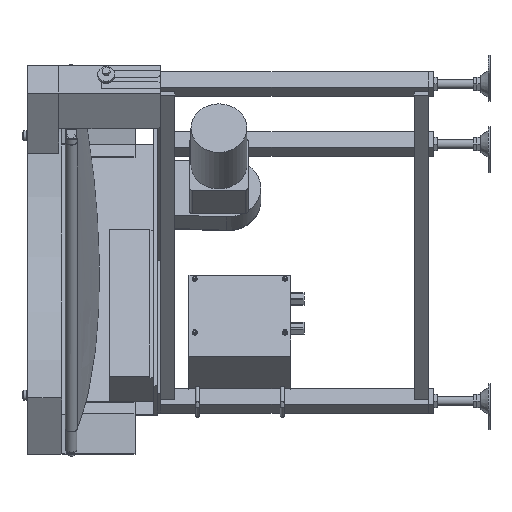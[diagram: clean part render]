
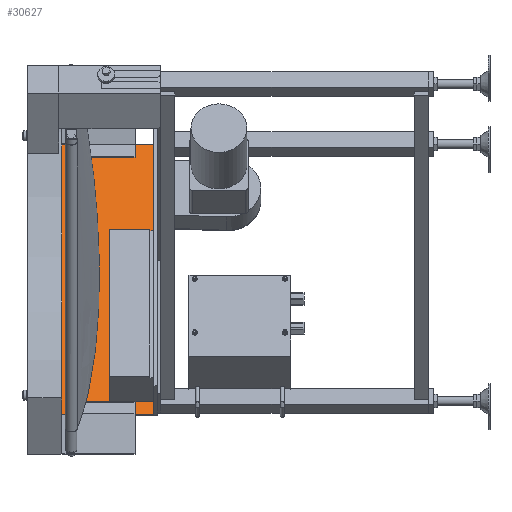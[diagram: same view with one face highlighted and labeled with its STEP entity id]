
A CAD part, left-side view. The second image highlights one B-rep face of the part: STEP entity #30627.
In plain terms, the highlighted planar face has unit normal (-0.866, 0, 0.5).
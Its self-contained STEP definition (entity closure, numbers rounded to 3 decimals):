
#2050 = ORIENTED_EDGE ( 'NONE', *, *, #42476, .F. ) ;
#2112 = LINE ( 'NONE', #20863, #21098 ) ;
#2996 = EDGE_LOOP ( 'NONE', ( #35363, #46563, #44117, #48468 ) ) ;
#4062 = CARTESIAN_POINT ( 'NONE',  ( 703.313, 39.5, -299.826 ) ) ;
#4585 = EDGE_CURVE ( 'NONE', #33768, #33768, #45370, .T. ) ;
#5065 = DIRECTION ( 'NONE',  ( -0.5, 0., -0.866 ) ) ;
#7189 = CARTESIAN_POINT ( 'NONE',  ( 704.813, 39.5, -297.228 ) ) ;
#7566 = FACE_BOUND ( 'NONE', #17908, .T. ) ;
#7598 = VERTEX_POINT ( 'NONE', #48208 ) ;
#7866 = DIRECTION ( 'NONE',  ( -0.866, 0., 0.5 ) ) ;
#7949 = DIRECTION ( 'NONE',  ( 0.5, 0., 0.866 ) ) ;
#8152 = AXIS2_PLACEMENT_3D ( 'NONE', #4062, #7866, #15529 ) ;
#8528 = CARTESIAN_POINT ( 'NONE',  ( 612.813, -99.5, -456.576 ) ) ;
#9660 = EDGE_CURVE ( 'NONE', #24833, #24833, #13267, .T. ) ;
#10657 = CARTESIAN_POINT ( 'NONE',  ( 794.813, 63.5, -141.343 ) ) ;
#12922 = VECTOR ( 'NONE', #17178, 1000. ) ;
#13022 = VERTEX_POINT ( 'NONE', #8528 ) ;
#13267 = CIRCLE ( 'NONE', #21950, 3. ) ;
#14352 = VERTEX_POINT ( 'NONE', #20109 ) ;
#14683 = EDGE_LOOP ( 'NONE', ( #17865 ) ) ;
#14897 = AXIS2_PLACEMENT_3D ( 'NONE', #45653, #49154, #37630 ) ;
#15529 = DIRECTION ( 'NONE',  ( 0.5, 0., 0.866 ) ) ;
#15722 = CARTESIAN_POINT ( 'NONE',  ( 794.813, 63.5, -141.343 ) ) ;
#16785 = LINE ( 'NONE', #15722, #25604 ) ;
#17132 = DIRECTION ( 'NONE',  ( -0.866, 0., 0.5 ) ) ;
#17178 = DIRECTION ( 'NONE',  ( -0.5, 0., -0.866 ) ) ;
#17865 = ORIENTED_EDGE ( 'NONE', *, *, #26101, .F. ) ;
#17908 = EDGE_LOOP ( 'NONE', ( #24842 ) ) ;
#18390 = PLANE ( 'NONE',  #14897 ) ;
#19745 = EDGE_CURVE ( 'NONE', #33277, #44669, #16785, .T. ) ;
#20109 = CARTESIAN_POINT ( 'NONE',  ( 519.813, -155.5, -617.657 ) ) ;
#20421 = DIRECTION ( 'NONE',  ( 0.5, 0., 0.866 ) ) ;
#20863 = CARTESIAN_POINT ( 'NONE',  ( 519.813, 63.5, -617.657 ) ) ;
#21098 = VECTOR ( 'NONE', #47489, 1000. ) ;
#21950 = AXIS2_PLACEMENT_3D ( 'NONE', #37802, #30622, #7949 ) ;
#23639 = VERTEX_POINT ( 'NONE', #42078 ) ;
#24268 = CIRCLE ( 'NONE', #40862, 3. ) ;
#24833 = VERTEX_POINT ( 'NONE', #34718 ) ;
#24842 = ORIENTED_EDGE ( 'NONE', *, *, #4585, .F. ) ;
#25604 = VECTOR ( 'NONE', #5065, 1000. ) ;
#26029 = EDGE_CURVE ( 'NONE', #44669, #14352, #2112, .T. ) ;
#26101 = EDGE_CURVE ( 'NONE', #13022, #13022, #30577, .T. ) ;
#26539 = FACE_BOUND ( 'NONE', #32330, .T. ) ;
#27677 = LINE ( 'NONE', #43573, #12922 ) ;
#28180 = DIRECTION ( 'NONE',  ( 0.5, 0., 0.866 ) ) ;
#29554 = EDGE_LOOP ( 'NONE', ( #48402 ) ) ;
#30577 = CIRCLE ( 'NONE', #46397, 3. ) ;
#30622 = DIRECTION ( 'NONE',  ( -0.866, 0., 0.5 ) ) ;
#30627 = ADVANCED_FACE ( 'NONE', ( #34255, #7566, #46795, #26539, #44419 ), #18390, .F. ) ;
#30890 = VECTOR ( 'NONE', #32730, 1000. ) ;
#31482 = CARTESIAN_POINT ( 'NONE',  ( 541.313, -99.5, -580.418 ) ) ;
#32330 = EDGE_LOOP ( 'NONE', ( #2050 ) ) ;
#32730 = DIRECTION ( 'NONE',  ( 0., -1., 0. ) ) ;
#33277 = VERTEX_POINT ( 'NONE', #36120 ) ;
#33768 = VERTEX_POINT ( 'NONE', #7189 ) ;
#34255 = FACE_BOUND ( 'NONE', #14683, .T. ) ;
#34718 = CARTESIAN_POINT ( 'NONE',  ( 774.813, 39.5, -175.984 ) ) ;
#35363 = ORIENTED_EDGE ( 'NONE', *, *, #26029, .T. ) ;
#35510 = CARTESIAN_POINT ( 'NONE',  ( 611.313, -99.5, -459.174 ) ) ;
#35858 = EDGE_CURVE ( 'NONE', #23639, #14352, #27677, .T. ) ;
#36120 = CARTESIAN_POINT ( 'NONE',  ( 794.813, 63.5, -141.343 ) ) ;
#37630 = DIRECTION ( 'NONE',  ( 0., 1., 0. ) ) ;
#37802 = CARTESIAN_POINT ( 'NONE',  ( 773.313, 39.5, -178.582 ) ) ;
#39014 = DIRECTION ( 'NONE',  ( -0.866, 0., 0.5 ) ) ;
#40862 = AXIS2_PLACEMENT_3D ( 'NONE', #31482, #39014, #20421 ) ;
#41086 = LINE ( 'NONE', #10657, #30890 ) ;
#41672 = CARTESIAN_POINT ( 'NONE',  ( 519.813, 63.5, -617.657 ) ) ;
#42020 = EDGE_CURVE ( 'NONE', #33277, #23639, #41086, .T. ) ;
#42078 = CARTESIAN_POINT ( 'NONE',  ( 794.813, -155.5, -141.343 ) ) ;
#42476 = EDGE_CURVE ( 'NONE', #7598, #7598, #24268, .T. ) ;
#43573 = CARTESIAN_POINT ( 'NONE',  ( 794.813, -155.5, -141.343 ) ) ;
#44117 = ORIENTED_EDGE ( 'NONE', *, *, #42020, .F. ) ;
#44419 = FACE_OUTER_BOUND ( 'NONE', #2996, .T. ) ;
#44669 = VERTEX_POINT ( 'NONE', #41672 ) ;
#45370 = CIRCLE ( 'NONE', #8152, 3. ) ;
#45653 = CARTESIAN_POINT ( 'NONE',  ( 794.813, 63.5, -141.343 ) ) ;
#46397 = AXIS2_PLACEMENT_3D ( 'NONE', #35510, #17132, #28180 ) ;
#46563 = ORIENTED_EDGE ( 'NONE', *, *, #35858, .F. ) ;
#46795 = FACE_BOUND ( 'NONE', #29554, .T. ) ;
#47489 = DIRECTION ( 'NONE',  ( 0., -1., 0. ) ) ;
#48208 = CARTESIAN_POINT ( 'NONE',  ( 542.813, -99.5, -577.82 ) ) ;
#48402 = ORIENTED_EDGE ( 'NONE', *, *, #9660, .F. ) ;
#48468 = ORIENTED_EDGE ( 'NONE', *, *, #19745, .T. ) ;
#49154 = DIRECTION ( 'NONE',  ( 0.866, 0., -0.5 ) ) ;
